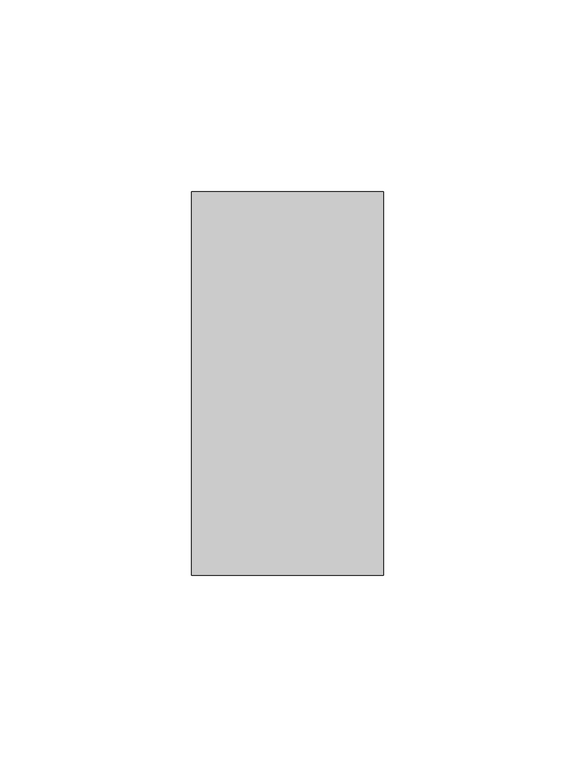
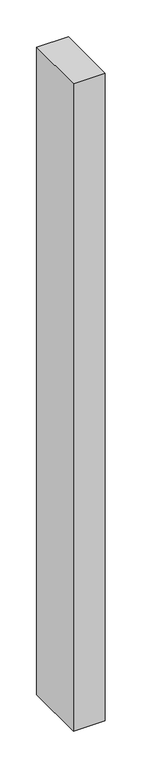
"""IFC4 building model written with IfcOpenShell, lengths in millimetres: member geometry, Meneaux de murs-rideaux - Meneau rectangulaire - 10 x 25mm (1)."""

from ifc_helpers import new_model, si_unit, frame, origin, place, context, project, spatial, polyline, outline, extrude, source, transform, mapped, element, save


def member_de099058(model_context):
    return source(origin(), model_context, "Body", "SweptSolid", [
        extrude(outline(polyline([(-25.0, 50.0), (25.0, 50.0), (25.0, -50.0), (-25.0, -50.0), (-25.0, 50.0)])), frame((0.0, 0.0, -1075.0), z_axis=(0.0, 0.0, 1.0), x_axis=(1.0, 0.0, 0.0)), (0.0, 0.0, 1.0), 1075.0),
    ])


if __name__ == "__main__":
    model = new_model("IFC4")
    model_context = context("Model", 3, world=origin())
    ifc_project = project(units=[si_unit("LENGTHUNIT", "METRE", prefix="MILLI")], contexts=[model_context])
    site = spatial("IfcSite", under=ifc_project)
    building = spatial("IfcBuilding", under=site)
    placement = place(None, origin())
    member_shape = member_de099058(model_context)
    element("IfcMember", 1, ObjectType="Meneaux de murs-rideaux - Meneau rectangulaire - 10 x 25mm (1)", at=placement, inside=building, context=model_context, shape_type="MappedRepresentation", body=[
        mapped(member_shape, transform((0.0, 0.0, 0.0), x_axis=(1.0, 0.0, 0.0), y_axis=(0.0, 1.0, 0.0), z_axis=(0.0, 0.0, 1.0))),
    ])
    save(model, "model.ifc")
